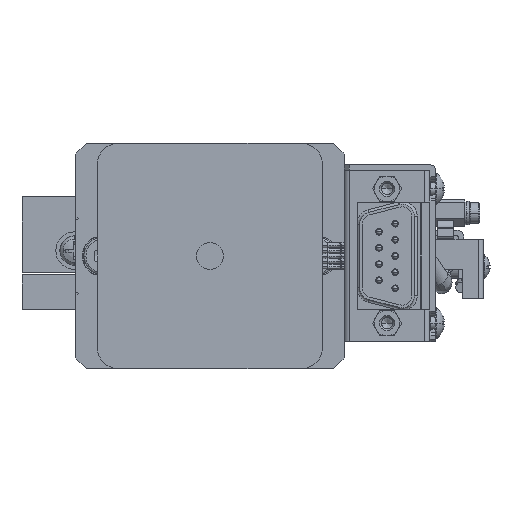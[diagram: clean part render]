
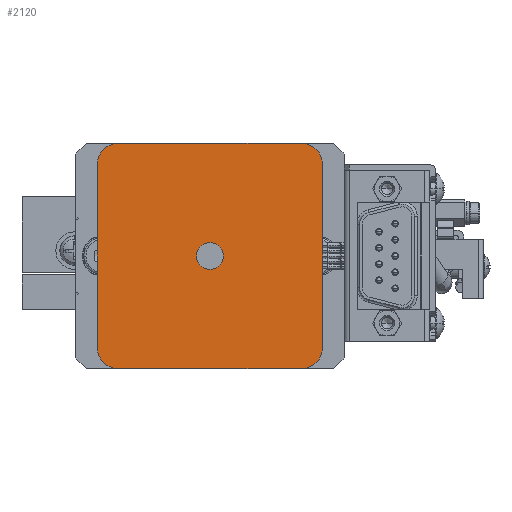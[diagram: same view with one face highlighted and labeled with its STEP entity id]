
A CAD part, left-side view. The second image highlights one B-rep face of the part: STEP entity #2120.
In plain terms, the highlighted planar face has unit normal (-1, 0, 0).
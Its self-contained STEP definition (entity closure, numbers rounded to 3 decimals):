
#2120=ADVANCED_FACE('',(#23344,#23345),#23343,.T.);
#23343=PLANE('',#44216);
#23344=FACE_OUTER_BOUND('',#44217,.T.);
#23345=FACE_BOUND('',#44218,.T.);
#44213=CARTESIAN_POINT('',(-133.,25.2,-15.2));
#44214=DIRECTION('',(-1.,0.,0.));
#44215=DIRECTION('',(0.,-1.,0.));
#44216=AXIS2_PLACEMENT_3D('',#44213,#44214,#44215);
#44217=EDGE_LOOP('',(#61103,#61104,#61105,#61106,#61107,#61108,#61109,#61110));
#44218=EDGE_LOOP('',(#61111,#61112));
#61103=ORIENTED_EDGE('',*,*,#70484,.F.);
#61104=ORIENTED_EDGE('',*,*,#70489,.T.);
#61105=ORIENTED_EDGE('',*,*,#70455,.F.);
#61106=ORIENTED_EDGE('',*,*,#70490,.T.);
#61107=ORIENTED_EDGE('',*,*,#70472,.F.);
#61108=ORIENTED_EDGE('',*,*,#70491,.T.);
#61109=ORIENTED_EDGE('',*,*,#70479,.F.);
#61110=ORIENTED_EDGE('',*,*,#70492,.T.);
#61111=ORIENTED_EDGE('',*,*,#70493,.F.);
#61112=ORIENTED_EDGE('',*,*,#70494,.F.);
#70455=EDGE_CURVE('',#108299,#108300,#108301,.T.);
#70472=EDGE_CURVE('',#108409,#108389,#108416,.T.);
#70479=EDGE_CURVE('',#108456,#108463,#108464,.T.);
#70484=EDGE_CURVE('',#108490,#108476,#108497,.T.);
#70489=EDGE_CURVE('',#108490,#108300,#108531,.T.);
#70490=EDGE_CURVE('',#108299,#108389,#108537,.T.);
#70491=EDGE_CURVE('',#108409,#108463,#108543,.T.);
#70492=EDGE_CURVE('',#108456,#108476,#108549,.T.);
#70493=EDGE_CURVE('',#108555,#108556,#108557,.T.);
#70494=EDGE_CURVE('',#108556,#108555,#108563,.T.);
#108299=VERTEX_POINT('',#139700);
#108300=VERTEX_POINT('',#139701);
#108301=LINE('',#139702,#139703);
#108389=VERTEX_POINT('',#139761);
#108409=VERTEX_POINT('',#139772);
#108416=LINE('',#139776,#139777);
#108456=VERTEX_POINT('',#139798);
#108463=VERTEX_POINT('',#139802);
#108464=LINE('',#139803,#139804);
#108476=VERTEX_POINT('',#139809);
#108490=VERTEX_POINT('',#139817);
#108497=LINE('',#139821,#139822);
#108531=CIRCLE('',#139845,4.);
#108537=CIRCLE('',#139849,4.);
#108543=CIRCLE('',#139853,4.);
#108549=CIRCLE('',#139857,4.);
#108555=VERTEX_POINT('',#139858);
#108556=VERTEX_POINT('',#139859);
#108557=CIRCLE('',#139863,2.5);
#108563=CIRCLE('',#139867,2.5);
#139700=CARTESIAN_POINT('',(-133.,-21.,27.));
#139701=CARTESIAN_POINT('',(-133.,-21.,-7.));
#139702=CARTESIAN_POINT('',(-133.,-21.,27.));
#139703=VECTOR('',#139704,34.);
#139704=DIRECTION('',(0.,0.,-1.));
#139761=CARTESIAN_POINT('',(-133.,-17.,31.));
#139772=CARTESIAN_POINT('',(-133.,17.,31.));
#139776=CARTESIAN_POINT('',(-133.,17.,31.));
#139777=VECTOR('',#139778,34.);
#139778=DIRECTION('',(0.,-1.,0.));
#139798=CARTESIAN_POINT('',(-133.,21.,-7.));
#139802=CARTESIAN_POINT('',(-133.,21.,27.));
#139803=CARTESIAN_POINT('',(-133.,21.,-7.));
#139804=VECTOR('',#139805,34.);
#139805=DIRECTION('',(0.,0.,1.));
#139809=CARTESIAN_POINT('',(-133.,17.,-11.));
#139817=CARTESIAN_POINT('',(-133.,-17.,-11.));
#139821=CARTESIAN_POINT('',(-133.,-17.,-11.));
#139822=VECTOR('',#139823,34.);
#139823=DIRECTION('',(0.,1.,0.));
#139842=CARTESIAN_POINT('',(-133.,-17.,-7.));
#139843=DIRECTION('',(-1.,0.,0.));
#139844=DIRECTION('',(0.,1.,0.));
#139845=AXIS2_PLACEMENT_3D('',#139842,#139843,#139844);
#139846=CARTESIAN_POINT('',(-133.,-17.,27.));
#139847=DIRECTION('',(-1.,0.,0.));
#139848=DIRECTION('',(0.,1.,0.));
#139849=AXIS2_PLACEMENT_3D('',#139846,#139847,#139848);
#139850=CARTESIAN_POINT('',(-133.,17.,27.));
#139851=DIRECTION('',(-1.,0.,0.));
#139852=DIRECTION('',(0.,1.,0.));
#139853=AXIS2_PLACEMENT_3D('',#139850,#139851,#139852);
#139854=CARTESIAN_POINT('',(-133.,17.,-7.));
#139855=DIRECTION('',(-1.,0.,0.));
#139856=DIRECTION('',(0.,1.,0.));
#139857=AXIS2_PLACEMENT_3D('',#139854,#139855,#139856);
#139858=CARTESIAN_POINT('',(-133.,2.5,10.));
#139859=CARTESIAN_POINT('',(-133.,-2.5,10.));
#139860=CARTESIAN_POINT('',(-133.,0.,10.));
#139861=DIRECTION('',(-1.,0.,0.));
#139862=DIRECTION('',(0.,-1.,0.));
#139863=AXIS2_PLACEMENT_3D('',#139860,#139861,#139862);
#139864=CARTESIAN_POINT('',(-133.,0.,10.));
#139865=DIRECTION('',(-1.,0.,0.));
#139866=DIRECTION('',(0.,-1.,0.));
#139867=AXIS2_PLACEMENT_3D('',#139864,#139865,#139866);
